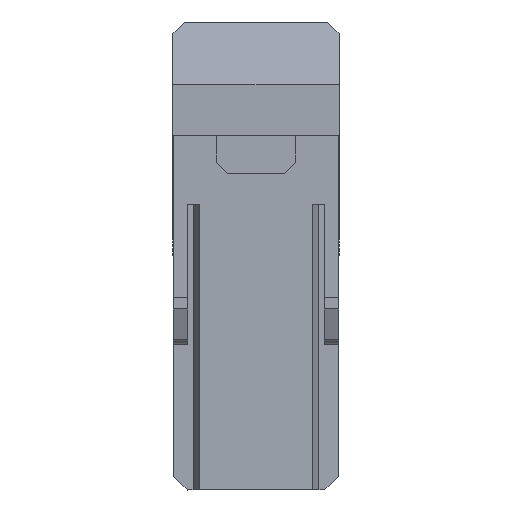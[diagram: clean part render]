
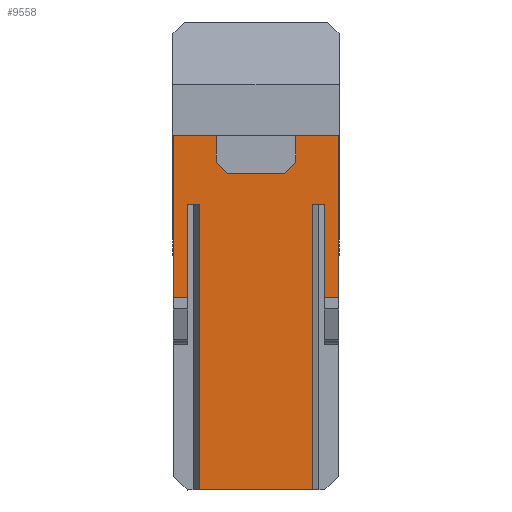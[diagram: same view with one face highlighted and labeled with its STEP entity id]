
A CAD part, left-side view. The second image highlights one B-rep face of the part: STEP entity #9558.
In plain terms, the highlighted planar face has unit normal (-1, 0, 0).
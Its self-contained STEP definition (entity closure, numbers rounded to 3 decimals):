
#20 = DIRECTION ( 'NONE',  ( 0., 0., 1. ) ) ;
#100 = DIRECTION ( 'NONE',  ( 0., 0., -1. ) ) ;
#122 = ORIENTED_EDGE ( 'NONE', *, *, #2783, .T. ) ;
#145 = EDGE_CURVE ( 'NONE', #12067, #4577, #6413, .T. ) ;
#208 = LINE ( 'NONE', #5127, #5059 ) ;
#258 = DIRECTION ( 'NONE',  ( 0., 0., 1. ) ) ;
#420 = VERTEX_POINT ( 'NONE', #8515 ) ;
#422 = EDGE_CURVE ( 'NONE', #9598, #12377, #6586, .T. ) ;
#526 = ORIENTED_EDGE ( 'NONE', *, *, #8193, .T. ) ;
#592 = CARTESIAN_POINT ( 'NONE',  ( -15.04, -409.344, 27.8 ) ) ;
#757 = CARTESIAN_POINT ( 'NONE',  ( -15.04, 3.93, 0. ) ) ;
#790 = DIRECTION ( 'NONE',  ( 1., 0., 0. ) ) ;
#822 = VERTEX_POINT ( 'NONE', #6650 ) ;
#852 = VERTEX_POINT ( 'NONE', #6858 ) ;
#977 = VECTOR ( 'NONE', #1702, 1000. ) ;
#1011 = CARTESIAN_POINT ( 'NONE',  ( -15.04, 1.46, 16.863 ) ) ;
#1186 = EDGE_CURVE ( 'NONE', #4845, #852, #9561, .T. ) ;
#1306 = DIRECTION ( 'NONE',  ( 0., 1., 0. ) ) ;
#1376 = DIRECTION ( 'NONE',  ( 0., 0., -1. ) ) ;
#1485 = CARTESIAN_POINT ( 'NONE',  ( -15.04, 5.43, 28.8 ) ) ;
#1525 = CARTESIAN_POINT ( 'NONE',  ( -15.04, 12.43, 28.8 ) ) ;
#1547 = LINE ( 'NONE', #2958, #10621 ) ;
#1549 = VERTEX_POINT ( 'NONE', #2063 ) ;
#1667 = VECTOR ( 'NONE', #5605, 1000. ) ;
#1702 = DIRECTION ( 'NONE',  ( 0., 0., 1. ) ) ;
#1779 = CARTESIAN_POINT ( 'NONE',  ( -15.04, -6.22, 10.15 ) ) ;
#2063 = CARTESIAN_POINT ( 'NONE',  ( -15.04, 2.93, 16.863 ) ) ;
#2110 = ORIENTED_EDGE ( 'NONE', *, *, #9689, .T. ) ;
#2205 = EDGE_CURVE ( 'NONE', #420, #7864, #3787, .T. ) ;
#2286 = VERTEX_POINT ( 'NONE', #8054 ) ;
#2323 = LINE ( 'NONE', #592, #5701 ) ;
#2783 = EDGE_CURVE ( 'NONE', #11733, #4729, #5003, .T. ) ;
#2835 = CARTESIAN_POINT ( 'NONE',  ( -15.04, 3.93, 25.1 ) ) ;
#2958 = CARTESIAN_POINT ( 'NONE',  ( -15.04, 3.93, 31.1 ) ) ;
#2991 = DIRECTION ( 'NONE',  ( 0., 1., 0. ) ) ;
#3174 = FACE_OUTER_BOUND ( 'NONE', #3643, .T. ) ;
#3182 = CARTESIAN_POINT ( 'NONE',  ( -15.04, 16.18, 0. ) ) ;
#3617 = CARTESIAN_POINT ( 'NONE',  ( -15.04, 13.93, 0. ) ) ;
#3643 = EDGE_LOOP ( 'NONE', ( #4988, #8085, #5154, #11652, #7826, #9644, #9269, #9037, #5429, #2110, #10898, #122, #4340, #526, #9610, #4877, #7569, #11233 ) ) ;
#3787 = LINE ( 'NONE', #6013, #4537 ) ;
#3856 = LINE ( 'NONE', #3617, #977 ) ;
#3868 = VECTOR ( 'NONE', #11832, 1000. ) ;
#3994 = VECTOR ( 'NONE', #9586, 1000. ) ;
#4004 = DIRECTION ( 'NONE',  ( 0., 0.707, -0.707 ) ) ;
#4114 = VERTEX_POINT ( 'NONE', #6266 ) ;
#4163 = VECTOR ( 'NONE', #12401, 1000. ) ;
#4340 = ORIENTED_EDGE ( 'NONE', *, *, #4942, .T. ) ;
#4537 = VECTOR ( 'NONE', #8796, 1000. ) ;
#4577 = VERTEX_POINT ( 'NONE', #5079 ) ;
#4729 = VERTEX_POINT ( 'NONE', #1525 ) ;
#4845 = VERTEX_POINT ( 'NONE', #5483 ) ;
#4877 = ORIENTED_EDGE ( 'NONE', *, *, #10641, .F. ) ;
#4942 = EDGE_CURVE ( 'NONE', #4729, #822, #10525, .T. ) ;
#4988 = ORIENTED_EDGE ( 'NONE', *, *, #6205, .F. ) ;
#5003 = LINE ( 'NONE', #1779, #10563 ) ;
#5059 = VECTOR ( 'NONE', #258, 1000. ) ;
#5079 = CARTESIAN_POINT ( 'NONE',  ( -15.04, 13.93, 0. ) ) ;
#5127 = CARTESIAN_POINT ( 'NONE',  ( -15.04, 5.43, 23.1 ) ) ;
#5154 = ORIENTED_EDGE ( 'NONE', *, *, #5675, .T. ) ;
#5250 = VECTOR ( 'NONE', #6861, 1000. ) ;
#5301 = EDGE_CURVE ( 'NONE', #12089, #4845, #12197, .T. ) ;
#5402 = VECTOR ( 'NONE', #20, 1000. ) ;
#5429 = ORIENTED_EDGE ( 'NONE', *, *, #7150, .F. ) ;
#5472 = CARTESIAN_POINT ( 'NONE',  ( -15.04, 13.93, 25.1 ) ) ;
#5483 = CARTESIAN_POINT ( 'NONE',  ( -15.04, 14.93, 25.1 ) ) ;
#5577 = DIRECTION ( 'NONE',  ( 0., 1., 0. ) ) ;
#5605 = DIRECTION ( 'NONE',  ( 0., 1., 0. ) ) ;
#5675 = EDGE_CURVE ( 'NONE', #12067, #12377, #6451, .T. ) ;
#5701 = VECTOR ( 'NONE', #5577, 1000. ) ;
#5756 = CARTESIAN_POINT ( 'NONE',  ( -15.04, 3.93, 25.1 ) ) ;
#5778 = CARTESIAN_POINT ( 'NONE',  ( -15.04, 11.43, 27.8 ) ) ;
#5831 = EDGE_CURVE ( 'NONE', #8606, #11733, #2323, .T. ) ;
#5860 = CARTESIAN_POINT ( 'NONE',  ( -15.04, 12.43, 0. ) ) ;
#5993 = CARTESIAN_POINT ( 'NONE',  ( -15.04, 6.43, 27.8 ) ) ;
#6013 = CARTESIAN_POINT ( 'NONE',  ( -15.04, 1.68, 0. ) ) ;
#6076 = CARTESIAN_POINT ( 'NONE',  ( -15.04, 1.68, 31.1 ) ) ;
#6143 = CARTESIAN_POINT ( 'NONE',  ( -15.04, 2.93, 16.894 ) ) ;
#6205 = EDGE_CURVE ( 'NONE', #4577, #12089, #3856, .T. ) ;
#6266 = CARTESIAN_POINT ( 'NONE',  ( -15.04, 16.18, 31.1 ) ) ;
#6413 = LINE ( 'NONE', #7208, #12445 ) ;
#6451 = LINE ( 'NONE', #8539, #4163 ) ;
#6586 = LINE ( 'NONE', #5756, #3994 ) ;
#6650 = CARTESIAN_POINT ( 'NONE',  ( -15.04, 12.43, 31.1 ) ) ;
#6730 = DIRECTION ( 'NONE',  ( 0., 1., 0. ) ) ;
#6858 = CARTESIAN_POINT ( 'NONE',  ( -15.04, 14.93, 16.863 ) ) ;
#6861 = DIRECTION ( 'NONE',  ( 0., 1., 0. ) ) ;
#6936 = DIRECTION ( 'NONE',  ( 0., 1., 0. ) ) ;
#7117 = LINE ( 'NONE', #11551, #8769 ) ;
#7150 = EDGE_CURVE ( 'NONE', #11545, #2286, #208, .T. ) ;
#7208 = CARTESIAN_POINT ( 'NONE',  ( -15.04, 3.93, 0. ) ) ;
#7569 = ORIENTED_EDGE ( 'NONE', *, *, #1186, .F. ) ;
#7826 = ORIENTED_EDGE ( 'NONE', *, *, #9303, .T. ) ;
#7864 = VERTEX_POINT ( 'NONE', #6076 ) ;
#8054 = CARTESIAN_POINT ( 'NONE',  ( -15.04, 5.43, 31.1 ) ) ;
#8085 = ORIENTED_EDGE ( 'NONE', *, *, #145, .F. ) ;
#8193 = EDGE_CURVE ( 'NONE', #822, #4114, #10301, .T. ) ;
#8515 = CARTESIAN_POINT ( 'NONE',  ( -15.04, 1.68, 16.863 ) ) ;
#8539 = CARTESIAN_POINT ( 'NONE',  ( -15.04, 3.93, 0. ) ) ;
#8606 = VERTEX_POINT ( 'NONE', #5993 ) ;
#8769 = VECTOR ( 'NONE', #4004, 1000. ) ;
#8789 = VERTEX_POINT ( 'NONE', #10237 ) ;
#8796 = DIRECTION ( 'NONE',  ( 0., 0., 1. ) ) ;
#9037 = ORIENTED_EDGE ( 'NONE', *, *, #12429, .T. ) ;
#9073 = EDGE_CURVE ( 'NONE', #1549, #420, #12104, .T. ) ;
#9081 = AXIS2_PLACEMENT_3D ( 'NONE', #757, #790, #6730 ) ;
#9269 = ORIENTED_EDGE ( 'NONE', *, *, #2205, .T. ) ;
#9303 = EDGE_CURVE ( 'NONE', #9598, #1549, #12092, .T. ) ;
#9558 = ADVANCED_FACE ( 'NONE', ( #3174 ), #12509, .F. ) ;
#9561 = LINE ( 'NONE', #11650, #11824 ) ;
#9586 = DIRECTION ( 'NONE',  ( 0., 1., 0. ) ) ;
#9598 = VERTEX_POINT ( 'NONE', #11391 ) ;
#9610 = ORIENTED_EDGE ( 'NONE', *, *, #10280, .F. ) ;
#9644 = ORIENTED_EDGE ( 'NONE', *, *, #9073, .T. ) ;
#9689 = EDGE_CURVE ( 'NONE', #11545, #8606, #7117, .T. ) ;
#9713 = DIRECTION ( 'NONE',  ( 0., -1., 0. ) ) ;
#9747 = LINE ( 'NONE', #3182, #3868 ) ;
#9829 = VECTOR ( 'NONE', #9713, 1000. ) ;
#9888 = CARTESIAN_POINT ( 'NONE',  ( -15.04, 16.4, 16.863 ) ) ;
#9897 = VECTOR ( 'NONE', #6936, 1000. ) ;
#10237 = CARTESIAN_POINT ( 'NONE',  ( -15.04, 16.18, 16.863 ) ) ;
#10280 = EDGE_CURVE ( 'NONE', #8789, #4114, #9747, .T. ) ;
#10301 = LINE ( 'NONE', #11371, #1667 ) ;
#10317 = CARTESIAN_POINT ( 'NONE',  ( -15.04, 3.93, 0. ) ) ;
#10525 = LINE ( 'NONE', #5860, #5402 ) ;
#10563 = VECTOR ( 'NONE', #12504, 1000. ) ;
#10621 = VECTOR ( 'NONE', #2991, 1000. ) ;
#10641 = EDGE_CURVE ( 'NONE', #852, #8789, #10800, .T. ) ;
#10642 = CARTESIAN_POINT ( 'NONE',  ( -15.04, 3.93, 25.1 ) ) ;
#10800 = LINE ( 'NONE', #9888, #9897 ) ;
#10898 = ORIENTED_EDGE ( 'NONE', *, *, #5831, .T. ) ;
#11233 = ORIENTED_EDGE ( 'NONE', *, *, #5301, .F. ) ;
#11371 = CARTESIAN_POINT ( 'NONE',  ( -15.04, 3.93, 31.1 ) ) ;
#11391 = CARTESIAN_POINT ( 'NONE',  ( -15.04, 2.93, 25.1 ) ) ;
#11545 = VERTEX_POINT ( 'NONE', #1485 ) ;
#11551 = CARTESIAN_POINT ( 'NONE',  ( -15.04, 19.08, 15.15 ) ) ;
#11650 = CARTESIAN_POINT ( 'NONE',  ( -15.04, 14.93, 0. ) ) ;
#11652 = ORIENTED_EDGE ( 'NONE', *, *, #422, .F. ) ;
#11733 = VERTEX_POINT ( 'NONE', #5778 ) ;
#11824 = VECTOR ( 'NONE', #100, 1000. ) ;
#11832 = DIRECTION ( 'NONE',  ( 0., 0., 1. ) ) ;
#12067 = VERTEX_POINT ( 'NONE', #10317 ) ;
#12089 = VERTEX_POINT ( 'NONE', #5472 ) ;
#12092 = LINE ( 'NONE', #6143, #12560 ) ;
#12104 = LINE ( 'NONE', #1011, #9829 ) ;
#12197 = LINE ( 'NONE', #2835, #5250 ) ;
#12377 = VERTEX_POINT ( 'NONE', #10642 ) ;
#12401 = DIRECTION ( 'NONE',  ( 0., 0., 1. ) ) ;
#12429 = EDGE_CURVE ( 'NONE', #7864, #2286, #1547, .T. ) ;
#12445 = VECTOR ( 'NONE', #1306, 1000. ) ;
#12504 = DIRECTION ( 'NONE',  ( 0., 0.707, 0.707 ) ) ;
#12509 = PLANE ( 'NONE',  #9081 ) ;
#12560 = VECTOR ( 'NONE', #1376, 1000. ) ;
